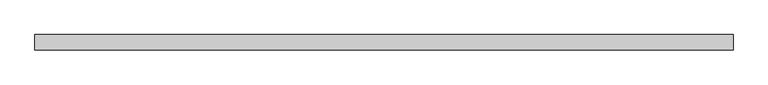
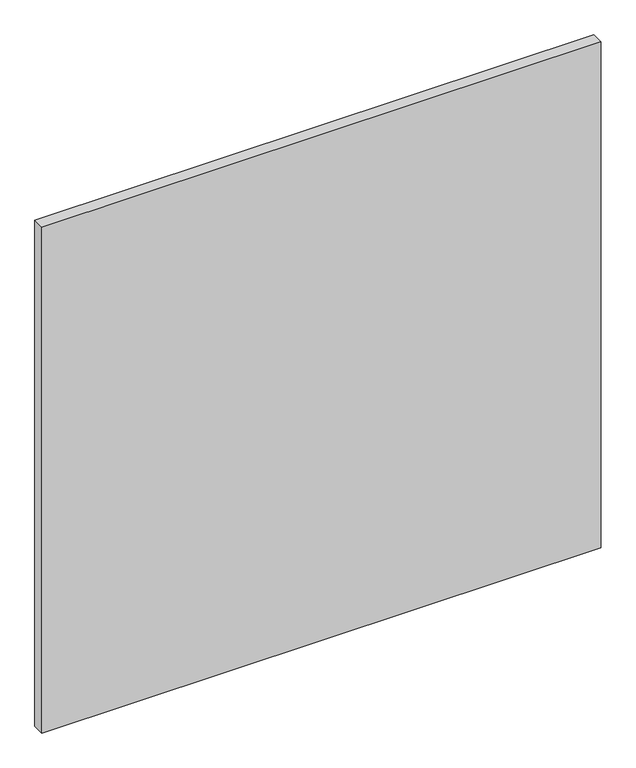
"""IFC4 building model written with IfcOpenShell, lengths in millimetres: plate geometry, システム パネル : ガラス."""

from ifc_helpers import new_model, si_unit, origin, origin_with_axes, place, context, project, spatial, polyline, outline, extrude, source, transform, mapped, element, save


def plate_892399b0(model_context):
    return source(origin(), model_context, "Body", "SweptSolid", [
        extrude(outline(polyline([(575.0000001, 24.5), (-575.0000001, 24.5), (-575.0000001, 49.5), (575.0000001, 49.5), (575.0000001, 24.5)])), origin_with_axes(), (0.0, 0.0, 1.0), 1100.0),
    ])


if __name__ == "__main__":
    model = new_model("IFC4")
    model_context = context("Model", 3, world=origin())
    ifc_project = project(units=[si_unit("LENGTHUNIT", "METRE", prefix="MILLI")], contexts=[model_context])
    site = spatial("IfcSite", under=ifc_project)
    building = spatial("IfcBuilding", under=site)
    placement = place(None, origin())
    plate_shape = plate_892399b0(model_context)
    element("IfcPlate", 1, ObjectType="システム パネル : ガラス", at=placement, inside=building, context=model_context, shape_type="MappedRepresentation", body=[
        mapped(plate_shape, transform((0.0, 0.0, 0.0), x_axis=(1.0, 0.0, 0.0), y_axis=(0.0, 1.0, 0.0), z_axis=(0.0, 0.0, 1.0))),
    ])
    save(model, "model.ifc")
